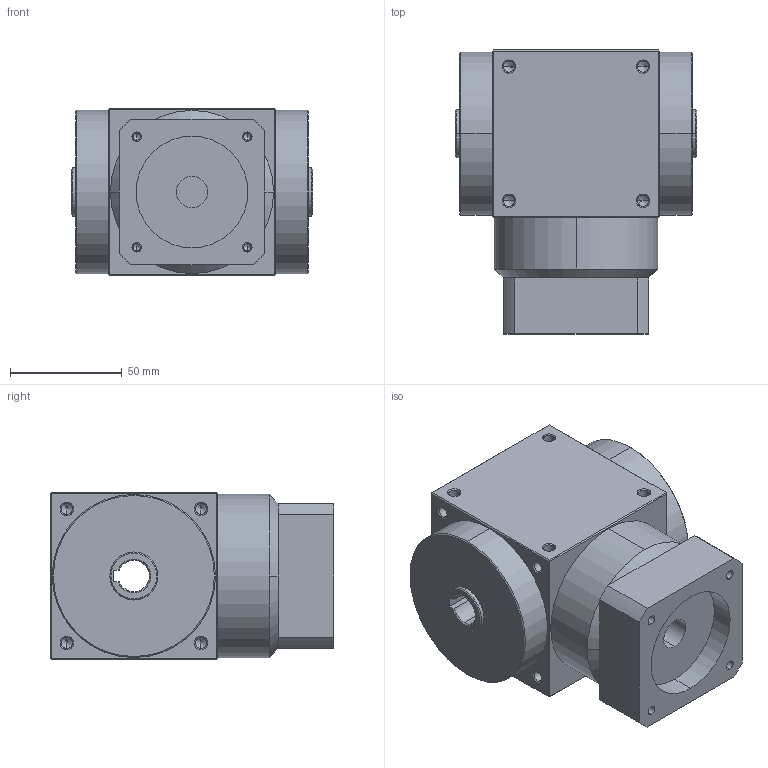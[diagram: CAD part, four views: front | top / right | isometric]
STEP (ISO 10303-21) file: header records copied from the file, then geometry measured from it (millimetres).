
FILE_DESCRIPTION (( 'STEP AP214' ), '1' );
FILE_NAME ('AT075-FH-005 14-50-70-M5.STEP', '2023-12-13T06:03:11', ( '微软用户' ), ( '微软中国' ), 'SwSTEP 2.0', 'SolidWorks 2018', '' );
FILE_SCHEMA (( 'AUTOMOTIVE_DESIGN' ));
Length unit declared in the file: millimetre
Products named in the file (1): AT075-FH-005 14-50-70-M5
Bounding box: 108 x 127 x 75 mm (x, y, z)
Volume: 713001.3 mm3; surface area: 65415.2 mm2
Topology: 1 solids, 1 shells, 266 faces, 667 edges, 366 vertices
Faces by surface type: cylinder 117, cone 101, plane 48
Entity records: 8473 total; most frequent: CARTESIAN_POINT 1600, DIRECTION 1251, ORIENTED_EDGE 1238, EDGE_CURVE 619, AXIS2_PLACEMENT_3D 481, VERTEX_POINT 366, EDGE_LOOP 303, LINE 289
